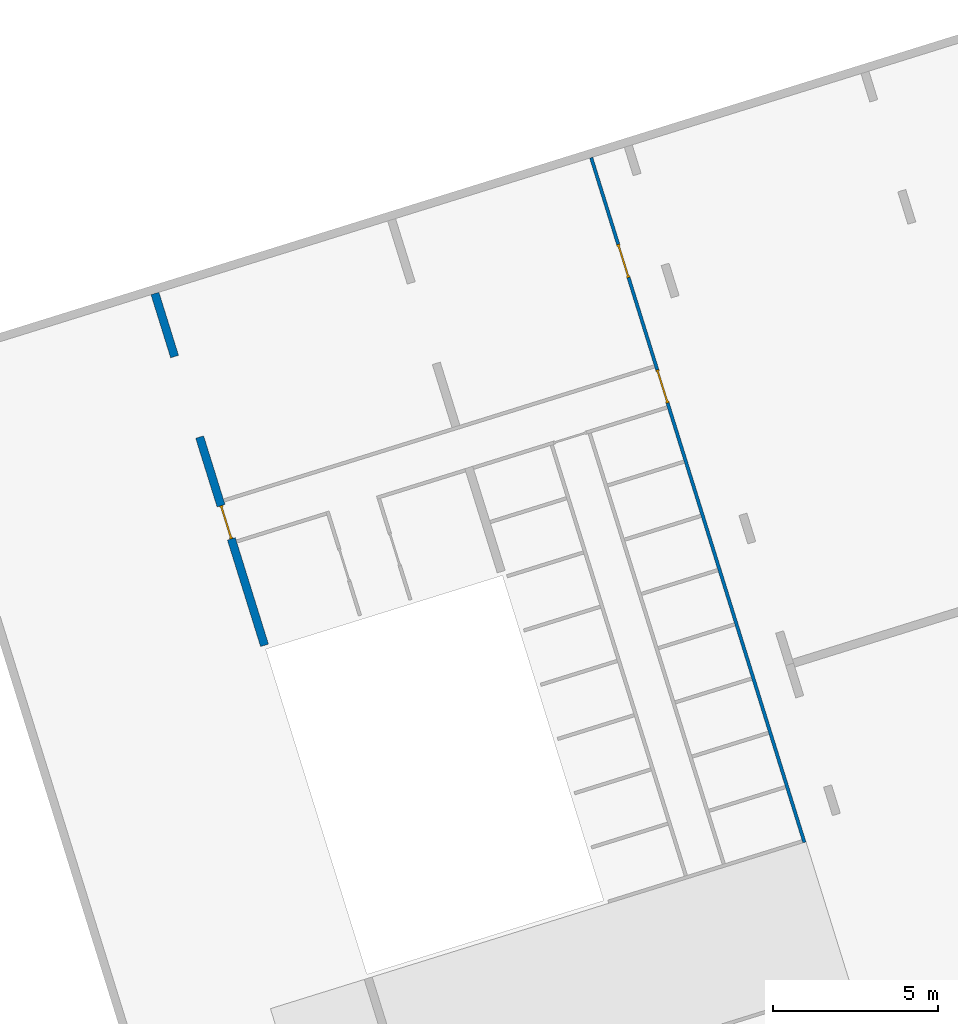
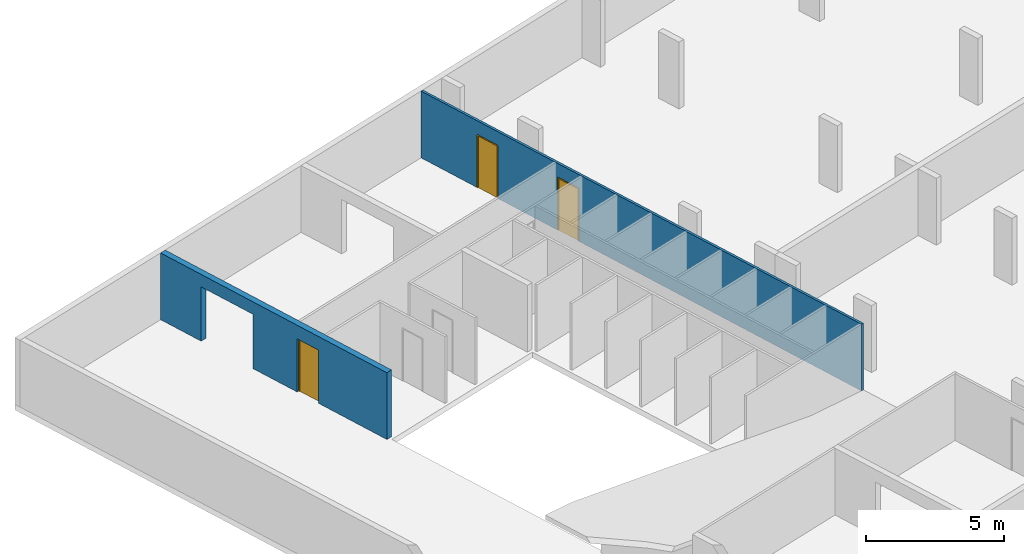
# One storey, part 4 of 4: 3 doors, 2 walls, 5 openings.
"""IFC4 building model written with IfcOpenShell, lengths in metres."""

from ifc_helpers import new_model, entity, si_unit, converted_unit, direction, frame, origin, place, context, subcontext, project, spatial, indexed_curve, outline, extrude, polygons, source, transform, mapped, material, constituent, constituent_set, type_object, type_shapes, element, fill, save


model = new_model("IFC4")

# Units and contexts
model_context = context("Model", 3, precision=1e-05, world=origin(), true_north=direction((6.12323399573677e-17, 1.0)))
body_context = subcontext(model_context, "Body", "Model", "MODEL_VIEW")
ifc_project = project(units=[si_unit("LENGTHUNIT", "METRE"), si_unit("AREAUNIT", "SQUARE_METRE"), si_unit("VOLUMEUNIT", "CUBIC_METRE"), converted_unit("PLANEANGLEUNIT", "DEGREE", entity("IfcPlaneAngleMeasure", 0.0174532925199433), si_unit("PLANEANGLEUNIT", "RADIAN"), dimensions=[0, 0, 0, 0, 0, 0, 0])], contexts=[model_context])

# Site, building, storey
site_placement = place(None, frame((13.1347999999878, 11.9886000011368, 0.0), z_axis=(0.0, 0.0, 1.0), x_axis=(0.954770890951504, 0.297342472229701, 0.0)))
site = spatial("IfcSite", under=ifc_project, at=site_placement, Name="Schiehaven", CompositionType="ELEMENT")
building_placement = place(site_placement, origin())
building = spatial("IfcBuilding", under=site, at=building_placement, Name="VORM huis", CompositionType="ELEMENT")
storey_placement = place(building_placement, frame((0.0, 0.0, -3.2)))
storey = spatial("IfcBuildingStorey", under=building, at=storey_placement, Name="-1 kelder", CompositionType="ELEMENT", Elevation=-3.2)

# Wall, openings, door
ifc_material_1 = material(Name="beton_gewapend_ihw", Category="Miscellaneous")
wall_type_1 = type_object("IfcWallType", Name="Basic Wall:28_WA_skelet_wand 250mm_gen", PredefinedType="STANDARD")
wall_1_placement = place(storey_placement, frame((12.5000000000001, 22.325, 0.0), z_axis=(0.0, 0.0, 1.0), x_axis=(0.0, 1.0, 0.0)))
wall_1 = element("IfcWall", 1, at=wall_1_placement, inside=storey, type_object=wall_type_1, material=ifc_material_1, Name="Constructieve wand", ObjectType="Wand", PredefinedType="NOTDEFINED", context=body_context, shape_type="Tessellation", body=[
    polygons([(4.42499999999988, -0.125000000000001, 2.34999999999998), (4.42499999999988, -0.125000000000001, 0.0), (6.59999999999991, -0.125000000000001, 0.0), (6.59999999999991, -0.125000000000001, 2.4), (9.15000000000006, -0.125000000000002, 2.4), (9.15000000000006, -0.125000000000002, 0.0), (11.1500000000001, -0.125000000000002, 0.0), (11.1500000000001, -0.125000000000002, 2.95), (0.0, -0.125000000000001, 2.95), (0.0, -0.125000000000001, 0.0), (3.37499999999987, -0.125000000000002, 0.0), (3.37499999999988, -0.125000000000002, 2.34999999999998), (6.59999999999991, 0.124999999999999, 0.0), (4.42499999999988, 0.124999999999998, 0.0), (4.42499999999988, 0.124999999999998, 2.34999999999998), (3.37499999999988, 0.124999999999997, 2.34999999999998), (3.37499999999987, 0.124999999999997, 0.0), (0.0, 0.124999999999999, 0.0), (0.0, 0.124999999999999, 2.95), (11.1500000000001, 0.124999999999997, 2.95), (11.1500000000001, 0.124999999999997, 0.0), (9.15000000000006, 0.124999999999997, 0.0), (9.15000000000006, 0.124999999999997, 2.4), (6.59999999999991, 0.124999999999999, 2.4)], [[[1, 2, 3, 4, 5, 6, 7, 8, 9, 10, 11, 12]], [[13, 14, 15, 16, 17, 18, 19, 20, 21, 22, 23, 24]], [[11, 10, 18, 17]], [[9, 8, 20, 19]], [[10, 9, 19, 18]], [[8, 7, 21, 20]], [[16, 15, 1, 12]], [[15, 14, 2, 1]], [[17, 16, 12, 11]], [[4, 24, 23, 5]], [[24, 4, 3, 13]], [[5, 23, 22, 6]], [[3, 2, 14, 13]], [[21, 7, 6, 22]]], closed=True),
])
opening_1_placement = place(wall_1_placement, origin())
element("IfcOpeningElement", 2, at=opening_1_placement, cuts=wall_1, Name="Constructieve wand", PredefinedType="OPENING", context=body_context, shape_type="SweptSolid", body=[
    extrude(outline(indexed_curve([(-1.2, -1.27500000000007), (1.2, -1.27500000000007), (1.2, 1.27500000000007), (-1.2, 1.27500000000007), (-1.2, -1.27500000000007)], self_intersect=False)), frame((7.87499999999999, -0.125000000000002, 1.2), z_axis=(0.0, 1.0, 0.0), x_axis=(0.0, 0.0, -1.0)), (0.0, 0.0, 1.0), 0.249999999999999),
])
opening_2_placement = place(wall_1_placement, frame((4.42499999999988, 0.124999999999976, 0.0)))
opening_2 = element("IfcOpeningElement", 3, at=opening_2_placement, cuts=wall_1, Name="Vluchtdeur", PredefinedType="OPENING", context=body_context, shape_type="SweptSolid", body=[
    extrude(outline(indexed_curve([(2.34999999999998, 1.05), (0.0, 1.05), (0.0, 0.0), (2.34999999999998, 0.0), (2.34999999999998, 1.05)], self_intersect=False)), frame((0.0, 0.0, 0.0), z_axis=(0.0, -1.0, 0.0), x_axis=(0.0, 0.0, 1.0)), (0.0, 0.0, 1.0), 0.25),
])
opening_3_placement = place(wall_1_placement, frame((-22.325, 12.5000000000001, 0.0), z_axis=(0.0, 0.0, 1.0), x_axis=(0.0, -1.0, 0.0)))
element("IfcOpeningElement", 4, at=opening_3_placement, cuts=wall_1, Name="Vluchtdeur", PredefinedType="OPENING", context=body_context, shape_type="SweptSolid", body=[
    extrude(outline(indexed_curve([(-0.525000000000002, -1.17499999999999), (0.525000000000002, -1.17499999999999), (0.524999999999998, 1.17499999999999), (-0.525000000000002, 1.17499999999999), (-0.525000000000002, -1.17499999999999)], self_intersect=False)), frame((13.8990000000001, 26.2249999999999, 1.17499999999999), z_axis=(-1.0, 0.0, 0.0), x_axis=(0.0, 1.0, 0.0)), (0.0, 0.0, 1.0), 3.048),
])
ifc_material_2 = material(Name="PD_a_binnenwandopeningen", Category="Miscellaneous")
ifc_constituent_1 = constituent(ifc_material_2, Name="PD_a_binnenwandopeningen", Category="Miscellaneous")
ifc_material_3 = material(Name="metaal_aluminium_ntb", Category="Miscellaneous")
ifc_constituent_2 = constituent(ifc_material_3, Name="metaal_aluminium_ntb", Category="Miscellaneous")
ifc_constituent_set_1 = constituent_set(constituents=[ifc_constituent_1, ifc_constituent_2])
ifc_constituent_3 = constituent(ifc_material_2, Name="PD_a_binnenwandopeningen", Category="Miscellaneous")
ifc_constituent_4 = constituent(ifc_material_3, Name="Panel", Category="Miscellaneous")
ifc_constituent_set_2 = constituent_set(constituents=[ifc_constituent_3, ifc_constituent_4])
door_type_1 = type_object("IfcDoorType", Name="32_DO_binnendeur enkel:binnendeur zelfsluitend 30min", OperationType="NOTDEFINED", PredefinedType="DOOR", material=ifc_constituent_set_2)
shared_shape_1 = source(origin(), body_context, "Body", "SweptSolid", [
    extrude(outline(indexed_curve([(-1.16249999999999, -0.525000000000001), (1.18749999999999, -0.525), (1.18749999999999, 0.525000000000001), (-1.16249999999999, 0.525000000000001), (-1.16249999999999, 0.475), (1.13749999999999, 0.475), (1.13749999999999, -0.475), (-1.16249999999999, -0.475), (-1.16249999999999, -0.525000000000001)], self_intersect=False)), frame((0.525000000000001, 0.0749999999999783, 1.16249999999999), z_axis=(0.0, 1.0, 0.0), x_axis=(0.0, 0.0, 1.0)), (0.0, 0.0, 1.0), 0.1),
    extrude(outline(indexed_curve([(-0.025, -0.475), (0.025, -0.475), (0.025, 0.475), (-0.025, 0.475), (-0.025, -0.475)], self_intersect=False)), frame((0.525000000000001, 0.12499999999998, 0.0), z_axis=(0.0, 0.0, 1.0), x_axis=(0.0, 1.0, 0.0)), (0.0, 0.0, 1.0), 2.29999999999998),
])
type_shapes(door_type_1, [shared_shape_1])
door_1_placement = place(opening_2_placement, frame((0.0, 0.0, 0.0), z_axis=(0.0, 0.0, 1.0), x_axis=(-1.0, 0.0, 0.0)))
door_1 = element("IfcDoor", 5, at=door_1_placement, inside=storey, type_object=door_type_1, material=ifc_constituent_set_1, Name="Vluchtdeur", ObjectType="Deur", OperationType="NOTDEFINED", OverallHeight=2.34999999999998, OverallWidth=1.05, PredefinedType="DOOR", context=body_context, shape_type="MappedRepresentation", body=[
    mapped(shared_shape_1, transform((0.0, 0.0, 0.0), scale=1.0)),
])
fill(opening_2, door_1)

# Wall, openings, doors
ifc_material_4 = material(Name="ntb_ntb_ntb", Category="Miscellaneous")
wall_type_2 = type_object("IfcWallType", Name="Basic Wall:22_WA_afbouw_binnenwand 100mm_gen", PredefinedType="STANDARD")
wall_2_placement = place(storey_placement, frame((26.3250000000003, 33.475, 0.0), z_axis=(0.0, 0.0, 1.0), x_axis=(0.0, -1.0, 0.0)))
wall_2 = element("IfcWall", 6, at=wall_2_placement, inside=storey, type_object=wall_type_2, material=ifc_material_4, Name="Binnenwand", ObjectType="Wand", PredefinedType="NOTDEFINED", context=body_context, shape_type="Tessellation", body=[
    polygons([(3.80000000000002, -0.0500000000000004, 0.0), (6.55000000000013, -0.05, 0.0), (6.65000000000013, -0.0499999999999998, 0.0), (6.72500000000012, -0.0499999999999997, 0.0), (6.72500000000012, -0.0499999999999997, 2.34999999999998), (7.77500000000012, -0.0499999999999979, 2.34999999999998), (7.77500000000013, -0.0499999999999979, 0.0), (7.85000000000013, -0.0499999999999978, 0.0), (7.95000000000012, -0.0500000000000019, 0.0), (9.56875000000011, -0.0499999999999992, 0.0), (9.66875000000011, -0.049999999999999, 0.0), (11.2875000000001, -0.0500000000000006, 0.0), (11.3875000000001, -0.0500000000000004, 0.0), (13.0062500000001, -0.050000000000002, 0.0), (13.1062500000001, -0.0500000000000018, 0.0), (14.7250000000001, -0.049999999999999, 0.0), (14.8250000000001, -0.0499999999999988, 0.0), (16.4437500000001, -0.0500000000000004, 0.0), (16.5437500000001, -0.0500000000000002, 0.0), (18.1625, -0.0500000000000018, 0.0), (18.2625, -0.0500000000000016, 0.0), (19.88125, -0.0499999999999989, 0.0), (19.98125, -0.0499999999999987, 0.0), (21.6, -0.0500000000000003, 0.0), (21.7, -0.0499999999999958, 0.0), (21.7, -0.0499999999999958, 2.95), (21.6, -0.0500000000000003, 2.95), (19.98125, -0.0499999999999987, 2.95), (19.88125, -0.0499999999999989, 2.95), (18.2625, -0.0500000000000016, 2.95), (18.1625, -0.0500000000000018, 2.95), (16.5437500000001, -0.0500000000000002, 2.95), (16.4437500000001, -0.0500000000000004, 2.95), (14.8250000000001, -0.0499999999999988, 2.95), (14.7250000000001, -0.049999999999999, 2.95), (13.1062500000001, -0.0500000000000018, 2.95), (13.0062500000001, -0.050000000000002, 2.95), (11.3875000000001, -0.0500000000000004, 2.95), (11.2875000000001, -0.0500000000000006, 2.95), (9.66875000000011, -0.049999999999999, 2.95), (9.56875000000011, -0.0499999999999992, 2.95), (7.95000000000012, -0.0500000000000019, 2.95), (7.85000000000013, -0.0499999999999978, 2.95), (6.65000000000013, -0.0499999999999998, 2.95), (6.55000000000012, -0.05, 2.95), (0.0, -0.0499999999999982, 2.95), (0.0, -0.0499999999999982, 0.0), (2.75000000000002, -0.0499999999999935, 0.0), (2.75000000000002, -0.0499999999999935, 2.34999999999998), (3.80000000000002, -0.0500000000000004, 2.34999999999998), (6.72500000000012, 0.0499999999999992, 2.34999999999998), (6.72500000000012, 0.0499999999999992, 0.0), (3.80000000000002, 0.0499999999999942, 0.0), (3.80000000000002, 0.0499999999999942, 2.34999999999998), (2.75000000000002, 0.0500000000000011, 2.34999999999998), (2.75000000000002, 0.0500000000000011, 0.0), (0.0, 0.0500000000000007, 0.0), (0.0, 0.0500000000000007, 2.95), (21.7, 0.0499999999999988, 2.95), (21.7, 0.0499999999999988, 0.0), (7.77500000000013, 0.050000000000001, 0.0), (7.77500000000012, 0.050000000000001, 2.34999999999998)], [[[1, 2, 3, 4, 5, 6, 7, 8, 9, 10, 11, 12, 13, 14, 15, 16, 17, 18, 19, 20, 21, 22, 23, 24, 25, 26, 27, 28, 29, 30, 31, 32, 33, 34, 35, 36, 37, 38, 39, 40, 41, 42, 43, 44, 45, 46, 47, 48, 49, 50]], [[51, 52, 53, 54, 55, 56, 57, 58, 59, 60, 61, 62]], [[57, 56, 48, 47]], [[46, 45, 44, 43, 42, 41, 40, 39, 38, 37, 36, 35, 34, 33, 32, 31, 30, 29, 28, 27, 26, 59, 58]], [[47, 46, 58, 57]], [[26, 25, 60, 59]], [[1, 50, 54, 53]], [[49, 48, 56, 55]], [[50, 49, 55, 54]], [[7, 6, 62, 61]], [[5, 4, 52, 51]], [[6, 5, 51, 62]], [[53, 52, 4, 3, 2, 1]], [[61, 60, 25, 24, 23, 22, 21, 20, 19, 18, 17, 16, 15, 14, 13, 12, 11, 10, 9, 8, 7]]], closed=True),
])
opening_4_placement = place(wall_2_placement, frame((2.75000000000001, -0.0500000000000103, 0.0)))
opening_4 = element("IfcOpeningElement", 7, at=opening_4_placement, cuts=wall_2, Name="Vluchtdeur", PredefinedType="OPENING", context=body_context, shape_type="SweptSolid", body=[
    extrude(outline(indexed_curve([(2.34999999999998, 1.05), (0.0, 1.05), (0.0, 0.0), (2.34999999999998, 0.0), (2.34999999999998, 1.05)], self_intersect=False)), frame((0.0, 0.0, 0.0), z_axis=(0.0, 1.0, 0.0), x_axis=(0.0, 0.0, 1.0)), (0.0, 0.0, 1.0), 0.1),
])
opening_5_placement = place(wall_2_placement, frame((7.77500000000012, 0.0499999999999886, 0.0)))
opening_5 = element("IfcOpeningElement", 8, at=opening_5_placement, cuts=wall_2, Name="Vluchtdeur", PredefinedType="OPENING", context=body_context, shape_type="SweptSolid", body=[
    extrude(outline(indexed_curve([(2.34999999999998, 0.0), (2.34999999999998, 1.05), (0.0, 1.05), (0.0, 0.0), (2.34999999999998, 0.0)], self_intersect=False)), frame((0.0, 0.0, 0.0), z_axis=(0.0, -1.0, 0.0), x_axis=(0.0, 0.0, 1.0)), (0.0, 0.0, 1.0), 0.1),
])
ifc_constituent_5 = constituent(ifc_material_2, Name="PD_a_binnenwandopeningen", Category="Miscellaneous")
ifc_constituent_6 = constituent(ifc_material_3, Name="metaal_aluminium_ntb", Category="Miscellaneous")
ifc_constituent_set_3 = constituent_set(constituents=[ifc_constituent_5, ifc_constituent_6])
ifc_constituent_7 = constituent(ifc_material_2, Name="PD_a_binnenwandopeningen", Category="Miscellaneous")
ifc_constituent_8 = constituent(ifc_material_3, Name="Panel", Category="Miscellaneous")
ifc_constituent_set_4 = constituent_set(constituents=[ifc_constituent_7, ifc_constituent_8])
door_type_2 = type_object("IfcDoorType", Name="32_DO_binnendeur enkel:binnendeur zelfsluitend 30min", OperationType="NOTDEFINED", PredefinedType="DOOR", material=ifc_constituent_set_4)
shared_shape_2 = source(origin(), body_context, "Body", "SweptSolid", [
    extrude(outline(indexed_curve([(0.475, -1.16249999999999), (0.525, -1.16249999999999), (0.525, 1.18749999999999), (-0.525, 1.18749999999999), (-0.525, -1.16249999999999), (-0.475, -1.16249999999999), (-0.475, 1.13749999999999), (0.475, 1.13749999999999), (0.475, -1.16249999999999)], self_intersect=False)), frame((0.525000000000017, 0.100000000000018, 1.16249999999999), z_axis=(0.0, -1.0, 0.0), x_axis=(1.0, 0.0, 0.0)), (0.0, 0.0, 1.0), 0.1),
    extrude(outline(indexed_curve([(-0.475, -0.025), (0.475, -0.025), (0.475, 0.025), (-0.475, 0.025), (-0.475, -0.025)], self_intersect=False)), frame((0.525000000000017, 0.0499999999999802, 0.0)), (0.0, 0.0, 1.0), 2.29999999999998),
])
type_shapes(door_type_2, [shared_shape_2])
door_2_placement = place(opening_5_placement, frame((0.0, 0.0, 0.0), z_axis=(0.0, 0.0, 1.0), x_axis=(-1.0, 0.0, 0.0)))
door_2 = element("IfcDoor", 9, at=door_2_placement, inside=storey, type_object=door_type_2, material=ifc_constituent_set_3, Name="Vluchtdeur", ObjectType="Deur", OperationType="NOTDEFINED", OverallHeight=2.34999999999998, OverallWidth=1.05, PredefinedType="DOOR", context=body_context, shape_type="MappedRepresentation", body=[
    mapped(shared_shape_2, transform((0.0, 0.0, 0.0), scale=1.0)),
])
fill(opening_5, door_2)
ifc_constituent_9 = constituent(ifc_material_2, Name="PD_a_binnenwandopeningen", Category="Miscellaneous")
ifc_constituent_10 = constituent(ifc_material_3, Name="metaal_aluminium_ntb", Category="Miscellaneous")
ifc_constituent_set_5 = constituent_set(constituents=[ifc_constituent_9, ifc_constituent_10])
ifc_constituent_11 = constituent(ifc_material_2, Name="PD_a_binnenwandopeningen", Category="Miscellaneous")
ifc_constituent_12 = constituent(ifc_material_3, Name="Panel", Category="Miscellaneous")
ifc_constituent_set_6 = constituent_set(constituents=[ifc_constituent_11, ifc_constituent_12])
door_type_3 = type_object("IfcDoorType", Name="32_DO_binnendeur enkel:binnendeur zelfsluitend 30min", OperationType="NOTDEFINED", PredefinedType="DOOR", material=ifc_constituent_set_6)
shared_shape_3 = source(origin(), body_context, "Body", "SweptSolid", [
    extrude(outline(indexed_curve([(-1.16249999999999, -0.525000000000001), (1.18749999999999, -0.525), (1.18749999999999, 0.525), (-1.16249999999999, 0.525), (-1.16249999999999, 0.475), (1.13749999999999, 0.475), (1.13749999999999, -0.475), (-1.16249999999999, -0.475), (-1.16249999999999, -0.525000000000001)], self_intersect=False)), frame((0.525000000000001, 0.0, 1.16249999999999), z_axis=(0.0, 1.0, 0.0), x_axis=(0.0, 0.0, 1.0)), (0.0, 0.0, 1.0), 0.1),
    extrude(outline(indexed_curve([(-0.025, -0.475), (0.025, -0.475), (0.025, 0.475), (-0.025, 0.475), (-0.025, -0.475)], self_intersect=False)), frame((0.525000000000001, 0.0499999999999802, 0.0), z_axis=(0.0, 0.0, 1.0), x_axis=(0.0, 1.0, 0.0)), (0.0, 0.0, 1.0), 2.29999999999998),
])
type_shapes(door_type_3, [shared_shape_3])
door_3_placement = place(opening_4_placement, origin())
door_3 = element("IfcDoor", 10, at=door_3_placement, inside=storey, type_object=door_type_3, material=ifc_constituent_set_5, Name="Vluchtdeur", ObjectType="Deur", OperationType="NOTDEFINED", OverallHeight=2.34999999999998, OverallWidth=1.05, PredefinedType="DOOR", context=body_context, shape_type="MappedRepresentation", body=[
    mapped(shared_shape_3, transform((0.0, 0.0, 0.0), scale=1.0)),
])
fill(opening_4, door_3)

save(model, "model.ifc")
